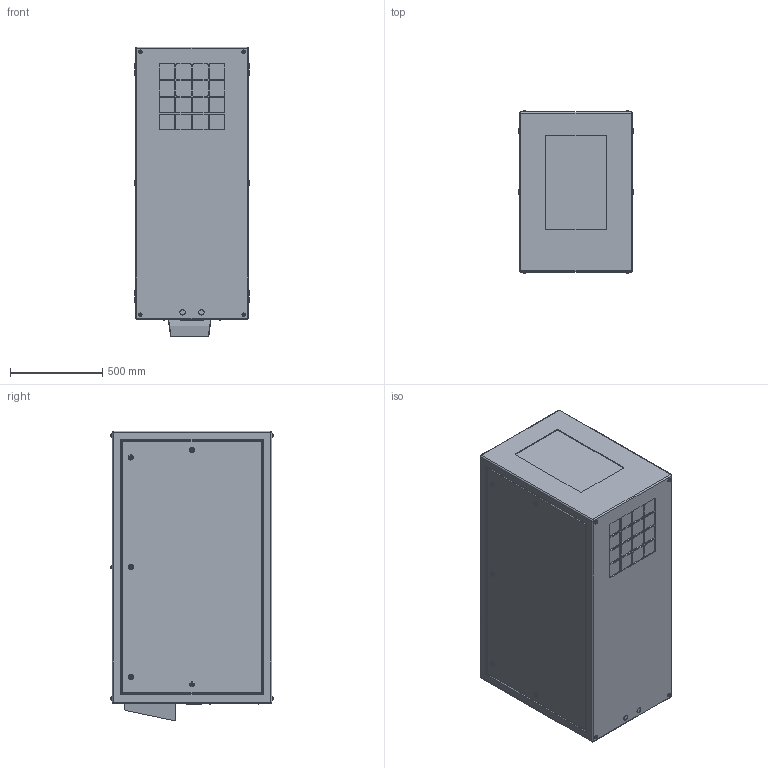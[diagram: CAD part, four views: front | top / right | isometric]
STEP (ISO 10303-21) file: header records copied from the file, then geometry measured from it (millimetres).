
FILE_DESCRIPTION (( 'STEP AP214' ), '1' );
FILE_NAME ('Cyclone 55.314.P R10.STEP', '2022-09-08T22:05:45', ( '' ), ( '' ), 'SwSTEP 2.0', 'SolidWorks 2020', '' );
FILE_SCHEMA (( 'AUTOMOTIVE_DESIGN' ));
Length unit declared in the file: inch
Products named in the file (1): Cyclone 55.314.P R10
Bounding box: 622.3 x 878.2 x 1568.45 mm (x, y, z)
Volume: 266701261 mm3; surface area: 10043834.2 mm2
Topology: 1 solids, 8 shells, 582 faces, 1356 edges, 868 vertices
Faces by surface type: plane 278, cylinder 244, torus 52, sphere 8
Entity records: 21605 total; most frequent: CARTESIAN_POINT 3343, DIRECTION 2958, ORIENTED_EDGE 2696, EDGE_CURVE 1348, AXIS2_PLACEMENT_3D 1123, VERTEX_POINT 868, LINE 712, VECTOR 712
